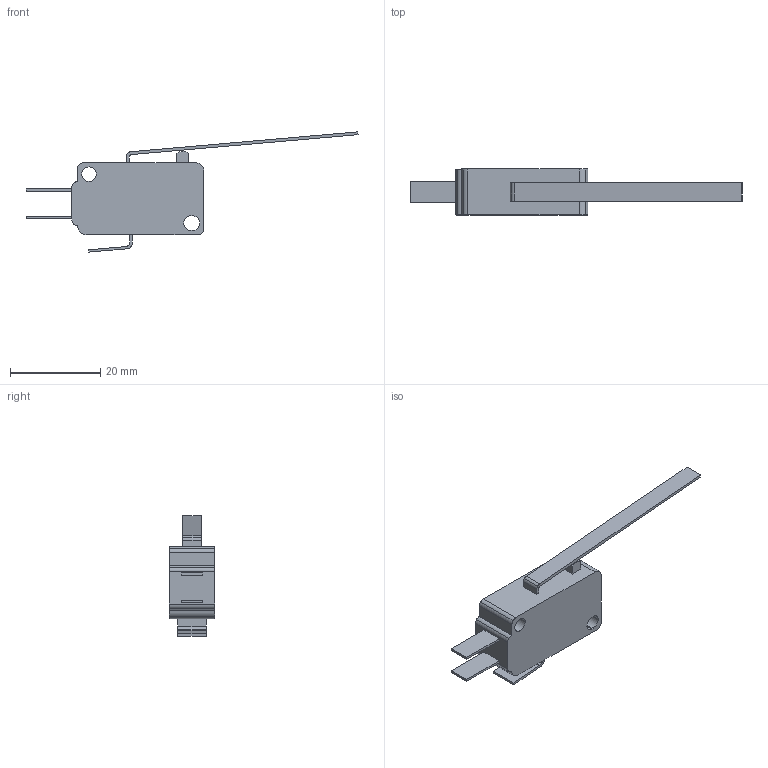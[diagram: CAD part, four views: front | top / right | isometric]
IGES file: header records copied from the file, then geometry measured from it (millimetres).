
Global section: file name: C:\Documents and Settings\Administrator\My Documents\PersonalProject\limitswitch.igs; native system: AutoDesk Inventor R2.0 ; preprocessor: AutoDesk Inventor Iges Exporter R2.0; author: No Author specified; organization: No Organization specified; date: 20020115.190203; units: inch
Bounding box: 73.46 x 10.16 x 26.6 mm (x, y, z)
Surface area: 2921.8 mm2 (no closed solid volume)
Topology: 0 solids, 0 shells, 71 faces, 354 edges, 354 vertices
Faces by surface type: bspline 43, revolution 28
